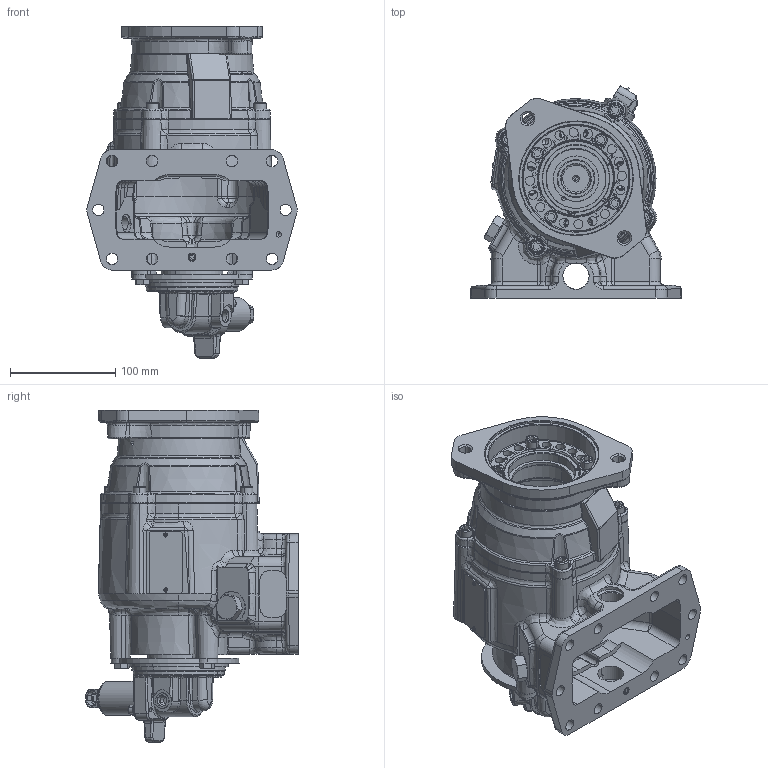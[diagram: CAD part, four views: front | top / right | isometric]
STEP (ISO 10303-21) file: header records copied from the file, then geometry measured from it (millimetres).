
FILE_DESCRIPTION (( 'STEP AP203' ), '1' );
FILE_NAME ('A20-A10XX-HX5BSPX.STEP', '2023-03-21T15:06:35', ( '' ), ( '' ), 'SwSTEP 2.0', 'SolidWorks 2021', '' );
FILE_SCHEMA (( 'CONFIG_CONTROL_DESIGN' ));
Length unit declared in the file: inch
Products named in the file (14): 15T43431_FOR CLAMPS; A20-A10XX-HX5BSPX; SC-301_25T37702; 19T36588_19T36588; 19T62950; DropInSolenoidRearCoverAssembly; 35T62496; 25T35999TMP; 47T6123_15T43431_DUST CAP INSTALLED; 47T6123TMP_Solenoid; 14T65650; 01T43513_5Arrangement; 15T65391DB3; 12T36701
Assembly tree (21 placements, depth 4):
  A20-A10XX-HX5BSPX
    01T43513_5Arrangement
    14T65650
    15T65391DB3
    19T36588_19T36588  x8
    DropInSolenoidRearCoverAssembly
      47T6123TMP_Solenoid
      47T6123_15T43431_DUST CAP INSTALLED
        15T43431_FOR CLAMPS
        19T62950  x2
        12T36701
        SC-301_25T37702
        35T62496
    25T35999TMP
Bounding box: 199.82 x 201.98 x 315.55 mm (x, y, z)
Volume: 1558866.9 mm3; surface area: 443301.7 mm2
Topology: 34 solids, 34 shells, 3421 faces, 8424 edges, 5122 vertices
Faces by surface type: plane 1045, bspline 966, cylinder 768, cone 397, torus 209, sphere 36
Entity records: 156778 total; most frequent: CARTESIAN_POINT 84158, ORIENTED_EDGE 15854, DIRECTION 13374, EDGE_CURVE 7927, AXIS2_PLACEMENT_3D 5210, VERTEX_POINT 4890, EDGE_LOOP 3563, FACE_OUTER_BOUND 3253
